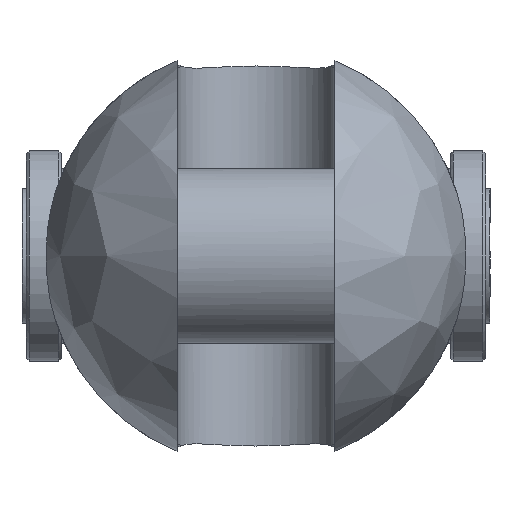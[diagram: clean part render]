
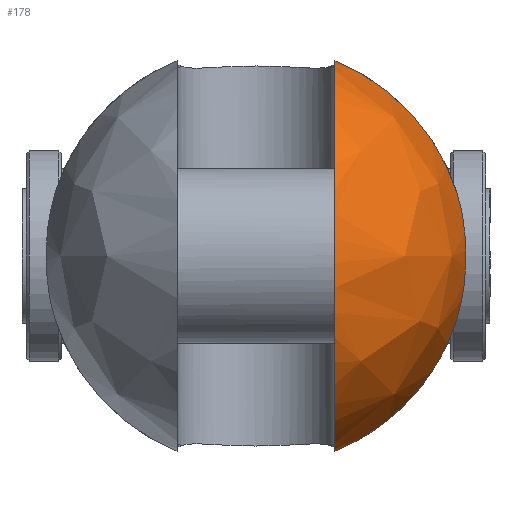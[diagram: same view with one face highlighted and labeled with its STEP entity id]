
A CAD part, left-side view. The second image highlights one B-rep face of the part: STEP entity #178.
In plain terms, the highlighted free-form (B-spline) face has degree [2, 2] with [9, 5] control points.
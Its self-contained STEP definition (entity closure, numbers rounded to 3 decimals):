
#178=ADVANCED_FACE('',(#318),#2409,.T.);
#318=FACE_OUTER_BOUND('',#478,.T.);
#478=EDGE_LOOP('',(#1189,#1190,#1191,#1192));
#1189=ORIENTED_EDGE('',*,*,#1569,.T.);
#1190=ORIENTED_EDGE('',*,*,#1597,.F.);
#1191=ORIENTED_EDGE('',*,*,#1609,.T.);
#1192=ORIENTED_EDGE('',*,*,#1589,.F.);
#1569=EDGE_CURVE('',#2242,#2241,#1976,.T.);
#1589=EDGE_CURVE('',#2242,#2254,#1986,.T.);
#1597=EDGE_CURVE('',#2261,#2241,#1987,.T.);
#1609=EDGE_CURVE('',#2261,#2254,#1782,.T.);
#1782=B_SPLINE_CURVE_WITH_KNOTS('',3,(#6063,#6064,#6065,#6066,#6067,#6068,
#6069,#6070,#6071,#6072,#6073,#6074,#6075,#6076),.UNSPECIFIED.,.F.,.F.,
(4,2,2,2,2,2,4),(0.,1.778,6.37,10.962,
15.554,20.146,21.924),.UNSPECIFIED.);
#1976=(
BOUNDED_CURVE()
B_SPLINE_CURVE(2,(#5839,#5840,#5841,#5842,#5843),.UNSPECIFIED.,.F.,.F.)
B_SPLINE_CURVE_WITH_KNOTS((3,2,3),(-104.844,-52.422,
0.),.UNSPECIFIED.)
CURVE()
GEOMETRIC_REPRESENTATION_ITEM()
RATIONAL_B_SPLINE_CURVE((1.,0.707,1.,0.707,1.))
REPRESENTATION_ITEM('')
);
#1986=(
BOUNDED_CURVE()
B_SPLINE_CURVE(2,(#5933,#5934,#5935),.UNSPECIFIED.,.F.,.F.)
B_SPLINE_CURVE_WITH_KNOTS((3,3),(0.,32.32),.UNSPECIFIED.)
CURVE()
GEOMETRIC_REPRESENTATION_ITEM()
RATIONAL_B_SPLINE_CURVE((1.,0.901,1.))
REPRESENTATION_ITEM('')
);
#1987=(
BOUNDED_CURVE()
B_SPLINE_CURVE(2,(#5990,#5991,#5992),.UNSPECIFIED.,.F.,.F.)
B_SPLINE_CURVE_WITH_KNOTS((3,3),(0.,32.32),.UNSPECIFIED.)
CURVE()
GEOMETRIC_REPRESENTATION_ITEM()
RATIONAL_B_SPLINE_CURVE((1.,0.901,1.))
REPRESENTATION_ITEM('')
);
#2241=VERTEX_POINT('',#5723);
#2242=VERTEX_POINT('',#5724);
#2254=VERTEX_POINT('',#5736);
#2261=VERTEX_POINT('',#5743);
#2409=(
BOUNDED_SURFACE()
B_SPLINE_SURFACE(2,2,((#5437,#5438,#5439,#5440,#5441),(#5442,#5443,#5444,
#5445,#5446),(#5447,#5448,#5449,#5450,#5451),(#5452,#5453,#5454,#5455,#5456),
(#5457,#5458,#5459,#5460,#5461),(#5462,#5463,#5464,#5465,#5466),(#5467,
#5468,#5469,#5470,#5471),(#5472,#5473,#5474,#5475,#5476),(#5477,#5478,#5479,
#5480,#5481)),.UNSPECIFIED.,.T.,.F.,.F.)
B_SPLINE_SURFACE_WITH_KNOTS((3,2,2,2,3),(3,2,3),(0.,56.549,113.097,
169.646,226.195),(0.,56.549,113.097),
 .UNSPECIFIED.)
GEOMETRIC_REPRESENTATION_ITEM()
RATIONAL_B_SPLINE_SURFACE(((1.,0.707,1.,0.707,1.),
(0.707,0.5,0.707,0.5,0.707),(1.,0.707,
1.,0.707,1.),(0.707,0.5,0.707,0.5,0.707),
(1.,0.707,1.,0.707,1.),(0.707,0.5,0.707,
0.5,0.707),(1.,0.707,1.,0.707,1.),(0.707,
0.5,0.707,0.5,0.707),(1.,0.707,1.,0.707,
1.)))
REPRESENTATION_ITEM('')
SURFACE()
);
#5437=CARTESIAN_POINT('',(-52.,0.,0.));
#5438=CARTESIAN_POINT('',(-52.,36.,0.));
#5439=CARTESIAN_POINT('',(-16.,36.,0.));
#5440=CARTESIAN_POINT('',(20.,36.,0.));
#5441=CARTESIAN_POINT('',(20.,0.,0.));
#5442=CARTESIAN_POINT('',(-52.,0.,0.));
#5443=CARTESIAN_POINT('',(-52.,36.,36.));
#5444=CARTESIAN_POINT('',(-16.,36.,36.));
#5445=CARTESIAN_POINT('',(20.,36.,36.));
#5446=CARTESIAN_POINT('',(20.,0.,0.));
#5447=CARTESIAN_POINT('',(-52.,0.,0.));
#5448=CARTESIAN_POINT('',(-52.,0.,36.));
#5449=CARTESIAN_POINT('',(-16.,0.,36.));
#5450=CARTESIAN_POINT('',(20.,0.,36.));
#5451=CARTESIAN_POINT('',(20.,0.,0.));
#5452=CARTESIAN_POINT('',(-52.,0.,0.));
#5453=CARTESIAN_POINT('',(-52.,-36.,36.));
#5454=CARTESIAN_POINT('',(-16.,-36.,36.));
#5455=CARTESIAN_POINT('',(20.,-36.,36.));
#5456=CARTESIAN_POINT('',(20.,0.,0.));
#5457=CARTESIAN_POINT('',(-52.,0.,0.));
#5458=CARTESIAN_POINT('',(-52.,-36.,0.));
#5459=CARTESIAN_POINT('',(-16.,-36.,0.));
#5460=CARTESIAN_POINT('',(20.,-36.,0.));
#5461=CARTESIAN_POINT('',(20.,0.,0.));
#5462=CARTESIAN_POINT('',(-52.,0.,0.));
#5463=CARTESIAN_POINT('',(-52.,-36.,-36.));
#5464=CARTESIAN_POINT('',(-16.,-36.,-36.));
#5465=CARTESIAN_POINT('',(20.,-36.,-36.));
#5466=CARTESIAN_POINT('',(20.,0.,0.));
#5467=CARTESIAN_POINT('',(-52.,0.,0.));
#5468=CARTESIAN_POINT('',(-52.,0.,-36.));
#5469=CARTESIAN_POINT('',(-16.,0.,-36.));
#5470=CARTESIAN_POINT('',(20.,0.,-36.));
#5471=CARTESIAN_POINT('',(20.,0.,0.));
#5472=CARTESIAN_POINT('',(-52.,0.,0.));
#5473=CARTESIAN_POINT('',(-52.,36.,-36.));
#5474=CARTESIAN_POINT('',(-16.,36.,-36.));
#5475=CARTESIAN_POINT('',(20.,36.,-36.));
#5476=CARTESIAN_POINT('',(20.,0.,0.));
#5477=CARTESIAN_POINT('',(-52.,0.,0.));
#5478=CARTESIAN_POINT('',(-52.,36.,0.));
#5479=CARTESIAN_POINT('',(-16.,36.,0.));
#5480=CARTESIAN_POINT('',(20.,36.,0.));
#5481=CARTESIAN_POINT('',(20.,0.,0.));
#5723=CARTESIAN_POINT('',(-16.,-13.5,-33.373));
#5724=CARTESIAN_POINT('',(-16.,-13.5,33.373));
#5736=CARTESIAN_POINT('',(-16.,-34.511,10.247));
#5743=CARTESIAN_POINT('',(-16.,-34.511,-10.247));
#5839=CARTESIAN_POINT('',(-16.,-13.5,33.373));
#5840=CARTESIAN_POINT('',(-49.373,-13.5,33.373));
#5841=CARTESIAN_POINT('',(-49.373,-13.5,0.));
#5842=CARTESIAN_POINT('',(-49.373,-13.5,-33.373));
#5843=CARTESIAN_POINT('',(-16.,-13.5,-33.373));
#5933=CARTESIAN_POINT('',(-16.,-13.5,33.373));
#5934=CARTESIAN_POINT('',(-16.,-29.575,26.87));
#5935=CARTESIAN_POINT('',(-16.,-34.511,10.247));
#5990=CARTESIAN_POINT('',(-16.,-34.511,-10.247));
#5991=CARTESIAN_POINT('',(-16.,-29.575,-26.87));
#5992=CARTESIAN_POINT('',(-16.,-13.5,-33.373));
#6063=CARTESIAN_POINT('',(-16.,-34.511,-10.247));
#6064=CARTESIAN_POINT('',(-16.313,-34.656,-9.758));
#6065=CARTESIAN_POINT('',(-16.605,-34.791,-9.252));
#6066=CARTESIAN_POINT('',(-17.569,-35.232,-7.391));
#6067=CARTESIAN_POINT('',(-18.107,-35.475,-5.952));
#6068=CARTESIAN_POINT('',(-18.823,-35.796,-3.));
#6069=CARTESIAN_POINT('',(-19.,-35.875,-1.485));
#6070=CARTESIAN_POINT('',(-19.,-35.875,1.485));
#6071=CARTESIAN_POINT('',(-18.823,-35.796,3.));
#6072=CARTESIAN_POINT('',(-18.107,-35.475,5.952));
#6073=CARTESIAN_POINT('',(-17.569,-35.232,7.391));
#6074=CARTESIAN_POINT('',(-16.605,-34.791,9.252));
#6075=CARTESIAN_POINT('',(-16.313,-34.656,9.758));
#6076=CARTESIAN_POINT('',(-16.,-34.511,10.247));
